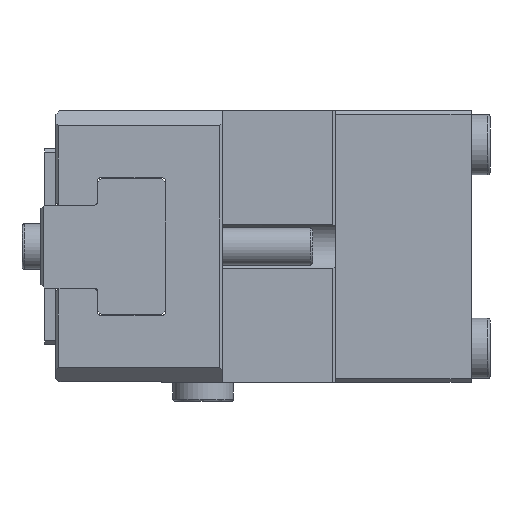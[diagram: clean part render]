
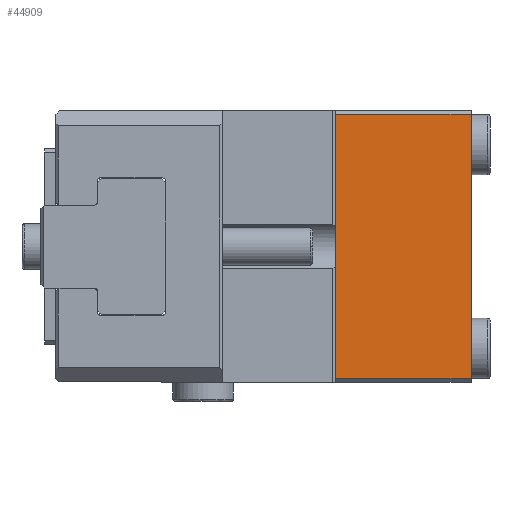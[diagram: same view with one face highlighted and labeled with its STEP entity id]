
A CAD part, left-side view. The second image highlights one B-rep face of the part: STEP entity #44909.
In plain terms, the highlighted planar face has unit normal (-1, 0, 0).
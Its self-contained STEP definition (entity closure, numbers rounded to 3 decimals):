
#1460 = ORIENTED_EDGE ( 'NONE', *, *, #10702, .F. ) ;
#5757 = LINE ( 'NONE', #42328, #39030 ) ;
#5915 = VECTOR ( 'NONE', #27441, 1000. ) ;
#6064 = LINE ( 'NONE', #8404, #46558 ) ;
#6089 = DIRECTION ( 'NONE',  ( 0., 1., 0. ) ) ;
#6826 = CARTESIAN_POINT ( 'NONE',  ( -26., 0., -17.5 ) ) ;
#8404 = CARTESIAN_POINT ( 'NONE',  ( -26., -18., 17.5 ) ) ;
#10702 = EDGE_CURVE ( 'NONE', #41040, #49134, #5757, .T. ) ;
#11255 = CARTESIAN_POINT ( 'NONE',  ( -26., -18., -17.5 ) ) ;
#12774 = PLANE ( 'NONE',  #19771 ) ;
#13047 = ORIENTED_EDGE ( 'NONE', *, *, #22054, .F. ) ;
#14354 = FACE_OUTER_BOUND ( 'NONE', #31381, .T. ) ;
#14874 = CARTESIAN_POINT ( 'NONE',  ( -26., 0., 17.5 ) ) ;
#17024 = DIRECTION ( 'NONE',  ( 1., 0., 0. ) ) ;
#17194 = VECTOR ( 'NONE', #6089, 1000. ) ;
#17365 = DIRECTION ( 'NONE',  ( 0., 0., -1. ) ) ;
#19771 = AXIS2_PLACEMENT_3D ( 'NONE', #29385, #17024, #46143 ) ;
#22054 = EDGE_CURVE ( 'NONE', #49134, #36314, #28208, .T. ) ;
#27441 = DIRECTION ( 'NONE',  ( 0., 0., 1. ) ) ;
#28208 = LINE ( 'NONE', #35305, #17194 ) ;
#29385 = CARTESIAN_POINT ( 'NONE',  ( -26., -18., 17.5 ) ) ;
#31052 = VERTEX_POINT ( 'NONE', #31427 ) ;
#31328 = EDGE_CURVE ( 'NONE', #31052, #41040, #6064, .T. ) ;
#31381 = EDGE_LOOP ( 'NONE', ( #13047, #1460, #35417, #38124 ) ) ;
#31427 = CARTESIAN_POINT ( 'NONE',  ( -26., 0., 17.5 ) ) ;
#33919 = EDGE_CURVE ( 'NONE', #36314, #31052, #39197, .T. ) ;
#35305 = CARTESIAN_POINT ( 'NONE',  ( -26., -18., -17.5 ) ) ;
#35417 = ORIENTED_EDGE ( 'NONE', *, *, #31328, .F. ) ;
#36113 = CARTESIAN_POINT ( 'NONE',  ( -26., -18., 17.5 ) ) ;
#36314 = VERTEX_POINT ( 'NONE', #6826 ) ;
#38124 = ORIENTED_EDGE ( 'NONE', *, *, #33919, .F. ) ;
#39030 = VECTOR ( 'NONE', #17365, 1000. ) ;
#39197 = LINE ( 'NONE', #14874, #5915 ) ;
#41040 = VERTEX_POINT ( 'NONE', #36113 ) ;
#42328 = CARTESIAN_POINT ( 'NONE',  ( -26., -18., 16. ) ) ;
#44909 = ADVANCED_FACE ( 'NONE', ( #14354 ), #12774, .F. ) ;
#46143 = DIRECTION ( 'NONE',  ( 0., 0., -1. ) ) ;
#46558 = VECTOR ( 'NONE', #50219, 1000. ) ;
#49134 = VERTEX_POINT ( 'NONE', #11255 ) ;
#50219 = DIRECTION ( 'NONE',  ( 0., -1., 0. ) ) ;
